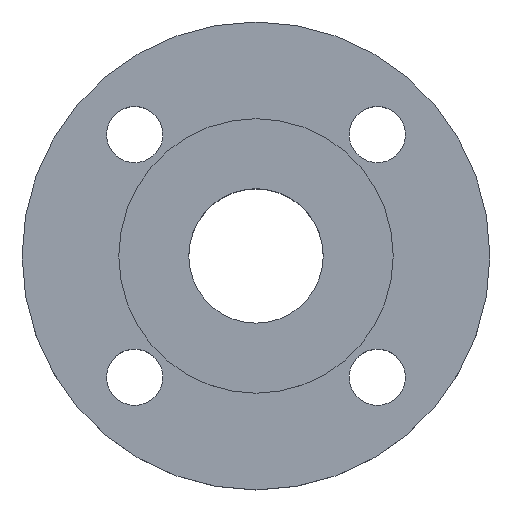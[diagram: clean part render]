
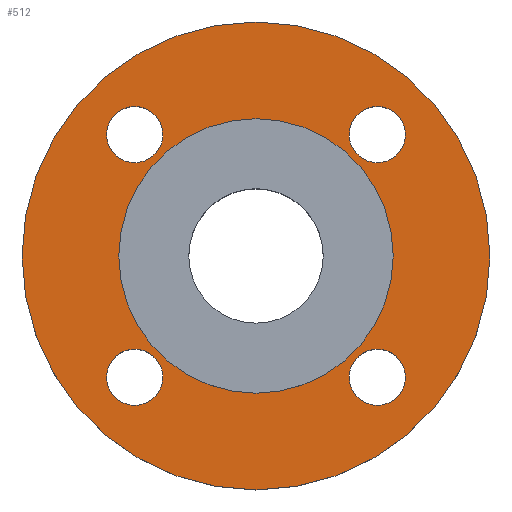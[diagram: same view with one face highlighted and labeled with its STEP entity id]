
A CAD part, top view. The second image highlights one B-rep face of the part: STEP entity #512.
In plain terms, the highlighted planar face has unit normal (0, 0, 1).
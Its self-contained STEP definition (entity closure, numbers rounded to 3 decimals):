
#14 = AXIS2_PLACEMENT_3D ( 'NONE', #82, #80, #78 ) ;
#38 = CIRCLE ( 'NONE', #219, 31.5 ) ;
#48 = CARTESIAN_POINT ( 'NONE',  ( -38.891, 38.891, 0. ) ) ;
#65 = EDGE_CURVE ( 'NONE', #680, #576, #38, .T. ) ;
#69 = CIRCLE ( 'NONE', #75, 9. ) ;
#75 = AXIS2_PLACEMENT_3D ( 'NONE', #467, #419, #469 ) ;
#78 = DIRECTION ( 'NONE',  ( 1., 0., 0. ) ) ;
#80 = DIRECTION ( 'NONE',  ( 0., 0., 1. ) ) ;
#82 = CARTESIAN_POINT ( 'NONE',  ( 0., 0., 0. ) ) ;
#94 = CIRCLE ( 'NONE', #14, 75. ) ;
#111 = DIRECTION ( 'NONE',  ( 1., 0., 0. ) ) ;
#113 = CIRCLE ( 'NONE', #118, 9. ) ;
#115 = CARTESIAN_POINT ( 'NONE',  ( -47.891, 38.891, 0. ) ) ;
#118 = AXIS2_PLACEMENT_3D ( 'NONE', #478, #499, #470 ) ;
#144 = CIRCLE ( 'NONE', #147, 9. ) ;
#147 = AXIS2_PLACEMENT_3D ( 'NONE', #486, #510, #507 ) ;
#154 = CIRCLE ( 'NONE', #155, 75. ) ;
#155 = AXIS2_PLACEMENT_3D ( 'NONE', #492, #538, #111 ) ;
#162 = CARTESIAN_POINT ( 'NONE',  ( -29.891, 38.891, 0. ) ) ;
#172 = CIRCLE ( 'NONE', #185, 9. ) ;
#181 = CARTESIAN_POINT ( 'NONE',  ( 0., 0., 0. ) ) ;
#185 = AXIS2_PLACEMENT_3D ( 'NONE', #409, #408, #406 ) ;
#187 = CARTESIAN_POINT ( 'NONE',  ( 47.891, -38.891, 0. ) ) ;
#189 = CARTESIAN_POINT ( 'NONE',  ( 47.891, 38.891, 0. ) ) ;
#213 = CIRCLE ( 'NONE', #332, 9. ) ;
#215 = DIRECTION ( 'NONE',  ( 0., 0., 1. ) ) ;
#217 = DIRECTION ( 'NONE',  ( 1., 0., 0. ) ) ;
#218 = CARTESIAN_POINT ( 'NONE',  ( -31.5, 0., 0. ) ) ;
#219 = AXIS2_PLACEMENT_3D ( 'NONE', #825, #826, #827 ) ;
#223 = EDGE_CURVE ( 'NONE', #576, #680, #239, .T. ) ;
#225 = AXIS2_PLACEMENT_3D ( 'NONE', #497, #505, #495 ) ;
#234 = CARTESIAN_POINT ( 'NONE',  ( 29.891, 38.891, 0. ) ) ;
#237 = CARTESIAN_POINT ( 'NONE',  ( 29.891, -38.891, 0. ) ) ;
#239 = CIRCLE ( 'NONE', #267, 31.5 ) ;
#246 = DIRECTION ( 'NONE',  ( -1., 0., 0. ) ) ;
#247 = CIRCLE ( 'NONE', #322, 9. ) ;
#248 = DIRECTION ( 'NONE',  ( 0., 0., -1. ) ) ;
#267 = AXIS2_PLACEMENT_3D ( 'NONE', #181, #215, #217 ) ;
#269 = AXIS2_PLACEMENT_3D ( 'NONE', #436, #248, #246 ) ;
#292 = CARTESIAN_POINT ( 'NONE',  ( -47.891, -38.891, 0. ) ) ;
#320 = CARTESIAN_POINT ( 'NONE',  ( -75., 0., 0. ) ) ;
#322 = AXIS2_PLACEMENT_3D ( 'NONE', #339, #340, #341 ) ;
#332 = AXIS2_PLACEMENT_3D ( 'NONE', #48, #485, #509 ) ;
#339 = CARTESIAN_POINT ( 'NONE',  ( 38.891, 38.891, 0. ) ) ;
#340 = DIRECTION ( 'NONE',  ( 0., 0., -1. ) ) ;
#341 = DIRECTION ( 'NONE',  ( -1., 0., 0. ) ) ;
#344 = EDGE_CURVE ( 'NONE', #710, #624, #247, .T. ) ;
#371 = CARTESIAN_POINT ( 'NONE',  ( -29.891, -38.891, 0. ) ) ;
#394 = CARTESIAN_POINT ( 'NONE',  ( 31.5, 0., 0. ) ) ;
#406 = DIRECTION ( 'NONE',  ( -1., 0., 0. ) ) ;
#408 = DIRECTION ( 'NONE',  ( 0., 0., -1. ) ) ;
#409 = CARTESIAN_POINT ( 'NONE',  ( -38.891, -38.891, 0. ) ) ;
#419 = DIRECTION ( 'NONE',  ( 0., 0., -1. ) ) ;
#436 = CARTESIAN_POINT ( 'NONE',  ( -38.891, -38.891, 0. ) ) ;
#467 = CARTESIAN_POINT ( 'NONE',  ( -38.891, 38.891, 0. ) ) ;
#469 = DIRECTION ( 'NONE',  ( -1., 0., 0. ) ) ;
#470 = DIRECTION ( 'NONE',  ( -1., 0., 0. ) ) ;
#478 = CARTESIAN_POINT ( 'NONE',  ( 38.891, 38.891, 0. ) ) ;
#485 = DIRECTION ( 'NONE',  ( 0., 0., -1. ) ) ;
#486 = CARTESIAN_POINT ( 'NONE',  ( 38.891, -38.891, 0. ) ) ;
#488 = CARTESIAN_POINT ( 'NONE',  ( 0., 0., 0. ) ) ;
#489 = DIRECTION ( 'NONE',  ( 1., 0., 0. ) ) ;
#490 = EDGE_CURVE ( 'NONE', #790, #731, #69, .T. ) ;
#492 = CARTESIAN_POINT ( 'NONE',  ( 0., 0., 0. ) ) ;
#495 = DIRECTION ( 'NONE',  ( -1., 0., 0. ) ) ;
#497 = CARTESIAN_POINT ( 'NONE',  ( 38.891, -38.891, 0. ) ) ;
#499 = DIRECTION ( 'NONE',  ( 0., 0., -1. ) ) ;
#505 = DIRECTION ( 'NONE',  ( 0., 0., -1. ) ) ;
#507 = DIRECTION ( 'NONE',  ( -1., 0., 0. ) ) ;
#509 = DIRECTION ( 'NONE',  ( -1., 0., 0. ) ) ;
#510 = DIRECTION ( 'NONE',  ( 0., 0., -1. ) ) ;
#511 = DIRECTION ( 'NONE',  ( 0., 0., 1. ) ) ;
#512 = ADVANCED_FACE ( 'NONE', ( #529, #528, #523, #525, #524, #514 ), #527, .T. ) ;
#514 = FACE_OUTER_BOUND ( 'NONE', #665, .T. ) ;
#523 = FACE_BOUND ( 'NONE', #613, .T. ) ;
#524 = FACE_BOUND ( 'NONE', #788, .T. ) ;
#525 = FACE_BOUND ( 'NONE', #799, .T. ) ;
#527 = PLANE ( 'NONE',  #682 ) ;
#528 = FACE_BOUND ( 'NONE', #574, .T. ) ;
#529 = FACE_BOUND ( 'NONE', #804, .T. ) ;
#533 = EDGE_CURVE ( 'NONE', #624, #710, #113, .T. ) ;
#538 = DIRECTION ( 'NONE',  ( 0., 0., 1. ) ) ;
#539 = EDGE_CURVE ( 'NONE', #718, #623, #727, .T. ) ;
#540 = EDGE_CURVE ( 'NONE', #731, #790, #213, .T. ) ;
#542 = EDGE_CURVE ( 'NONE', #623, #718, #144, .T. ) ;
#554 = EDGE_CURVE ( 'NONE', #594, #655, #154, .T. ) ;
#560 = CIRCLE ( 'NONE', #269, 9. ) ;
#562 = EDGE_CURVE ( 'NONE', #604, #587, #172, .T. ) ;
#574 = EDGE_LOOP ( 'NONE', ( #662, #663 ) ) ;
#576 = VERTEX_POINT ( 'NONE', #394 ) ;
#587 = VERTEX_POINT ( 'NONE', #371 ) ;
#594 = VERTEX_POINT ( 'NONE', #320 ) ;
#604 = VERTEX_POINT ( 'NONE', #292 ) ;
#607 = EDGE_CURVE ( 'NONE', #587, #604, #560, .T. ) ;
#613 = EDGE_LOOP ( 'NONE', ( #666, #668 ) ) ;
#619 = CARTESIAN_POINT ( 'NONE',  ( 75., 0., 0. ) ) ;
#623 = VERTEX_POINT ( 'NONE', #237 ) ;
#624 = VERTEX_POINT ( 'NONE', #234 ) ;
#655 = VERTEX_POINT ( 'NONE', #619 ) ;
#660 = ORIENTED_EDGE ( 'NONE', *, *, #539, .T. ) ;
#661 = ORIENTED_EDGE ( 'NONE', *, *, #542, .T. ) ;
#662 = ORIENTED_EDGE ( 'NONE', *, *, #607, .T. ) ;
#663 = ORIENTED_EDGE ( 'NONE', *, *, #562, .T. ) ;
#665 = EDGE_LOOP ( 'NONE', ( #674, #675 ) ) ;
#666 = ORIENTED_EDGE ( 'NONE', *, *, #540, .T. ) ;
#668 = ORIENTED_EDGE ( 'NONE', *, *, #490, .T. ) ;
#670 = ORIENTED_EDGE ( 'NONE', *, *, #344, .T. ) ;
#671 = ORIENTED_EDGE ( 'NONE', *, *, #533, .T. ) ;
#672 = ORIENTED_EDGE ( 'NONE', *, *, #223, .F. ) ;
#673 = ORIENTED_EDGE ( 'NONE', *, *, #65, .F. ) ;
#674 = ORIENTED_EDGE ( 'NONE', *, *, #811, .T. ) ;
#675 = ORIENTED_EDGE ( 'NONE', *, *, #554, .T. ) ;
#680 = VERTEX_POINT ( 'NONE', #218 ) ;
#682 = AXIS2_PLACEMENT_3D ( 'NONE', #488, #511, #489 ) ;
#710 = VERTEX_POINT ( 'NONE', #189 ) ;
#718 = VERTEX_POINT ( 'NONE', #187 ) ;
#727 = CIRCLE ( 'NONE', #225, 9. ) ;
#731 = VERTEX_POINT ( 'NONE', #162 ) ;
#788 = EDGE_LOOP ( 'NONE', ( #672, #673 ) ) ;
#790 = VERTEX_POINT ( 'NONE', #115 ) ;
#799 = EDGE_LOOP ( 'NONE', ( #670, #671 ) ) ;
#804 = EDGE_LOOP ( 'NONE', ( #660, #661 ) ) ;
#811 = EDGE_CURVE ( 'NONE', #655, #594, #94, .T. ) ;
#825 = CARTESIAN_POINT ( 'NONE',  ( 0., 0., 0. ) ) ;
#826 = DIRECTION ( 'NONE',  ( 0., 0., 1. ) ) ;
#827 = DIRECTION ( 'NONE',  ( 1., 0., 0. ) ) ;
